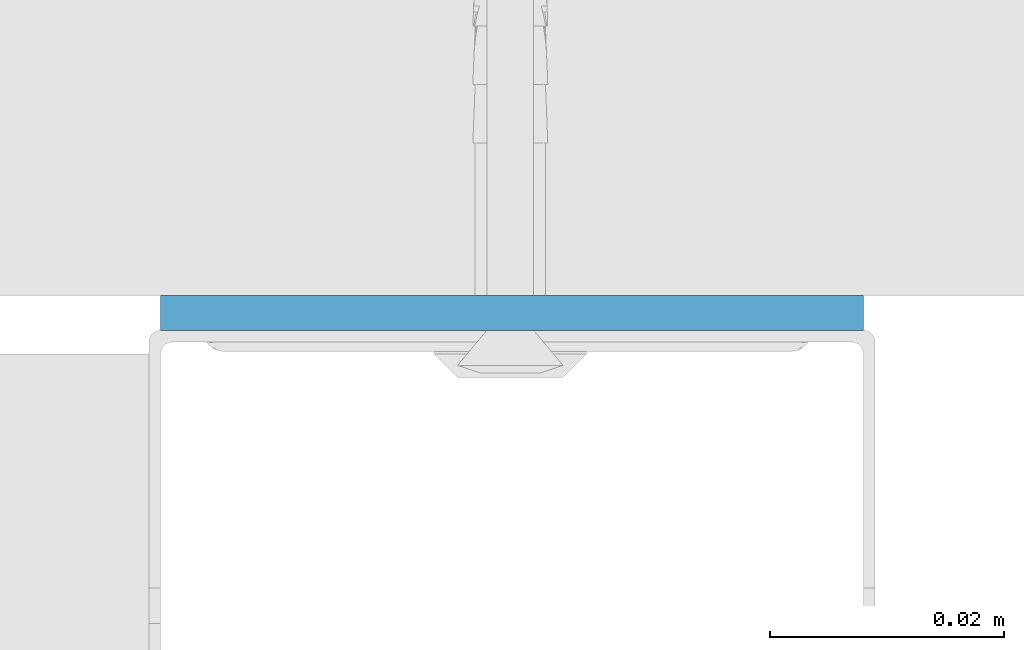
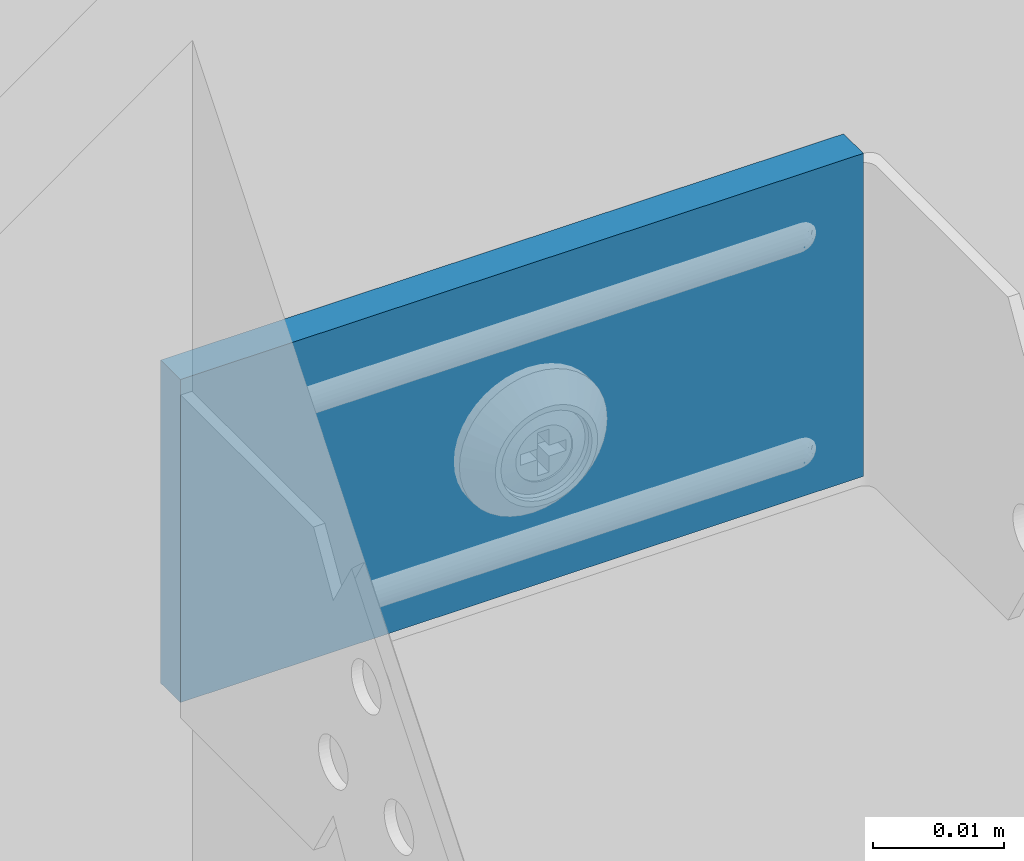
# One storey, part 42 of 48: 1 wall.
"""IFC2X3 building model written with IfcOpenShell, lengths in millimetres."""

from ifc_helpers import new_model, entity, si_unit, converted_unit, direction, frame, origin, origin_with_axes, place, context, project, spatial, faceted_brep, element, save


model = new_model("IFC2X3")

# Units and contexts
model_context = context("Model", 3, precision=1e-05, world=origin(), true_north=direction((0.0, 1.0, 0.0)))
ifc_project = project(units=[si_unit("LENGTHUNIT", "METRE", prefix="MILLI"), si_unit("AREAUNIT", "SQUARE_METRE"), si_unit("VOLUMEUNIT", "CUBIC_METRE"), converted_unit("PLANEANGLEUNIT", "DEGREE", entity("IfcPlaneAngleMeasure", 0.01745), si_unit("PLANEANGLEUNIT", "RADIAN"), dimensions=[0, 0, 0, 0, 0, 0, 0]), si_unit("SOLIDANGLEUNIT", "STERADIAN"), si_unit("MASSUNIT", "GRAM"), si_unit("TIMEUNIT", "SECOND"), si_unit("THERMODYNAMICTEMPERATUREUNIT", "DEGREE_CELSIUS"), si_unit("LUMINOUSINTENSITYUNIT", "LUMEN")], contexts=[model_context])

# Site, building, storey
site_placement = place(None, origin_with_axes())
site = spatial("IfcSite", under=ifc_project, at=site_placement, Name="Default Site", CompositionType="ELEMENT")
building_placement = place(site_placement, origin_with_axes())
building = spatial("IfcBuilding", under=site, at=building_placement, Name="Default Building", CompositionType="ELEMENT")
storey_placement = place(building_placement, origin_with_axes())
storey = spatial("IfcBuildingStorey", under=building, at=storey_placement, Name="Default Building Storey", CompositionType="ELEMENT", Elevation=0.0)

# Wall
wall_placement = place(storey_placement, frame((3455.939502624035, 2019.140922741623, 121.1016459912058), z_axis=(0.0, 0.0, 1.0), x_axis=(1.0, 0.0, 0.0)))
element("IfcWall", 1, at=wall_placement, inside=storey, Name="Taśma uszczelniająca piankowa RIGIPS szer.30mm", context=model_context, shape_type="Brep", body=[
    faceted_brep([(59.99999999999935, 0.0, 4.511946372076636e-12), (0.0, 0.0, 0.0), (1.082867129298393e-12, -2.237925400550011e-11, -30.00000000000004), (60.00000000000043, -2.237925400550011e-11, -29.99999999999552), (0.0, 3.00000000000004, 0.0), (1.082867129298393e-12, 2.999999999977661, -30.00000000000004), (60.00000000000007, 3.00000000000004, 0.0), (60.00000000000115, 2.999999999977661, -30.00000000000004)], [[[0, 1, 2, 3]], [[1, 4, 5, 2]], [[4, 6, 7, 5]], [[6, 0, 3, 7]], [[7, 3, 2, 5]], [[0, 6, 4, 1]]]),
])

save(model, "model.ifc")
